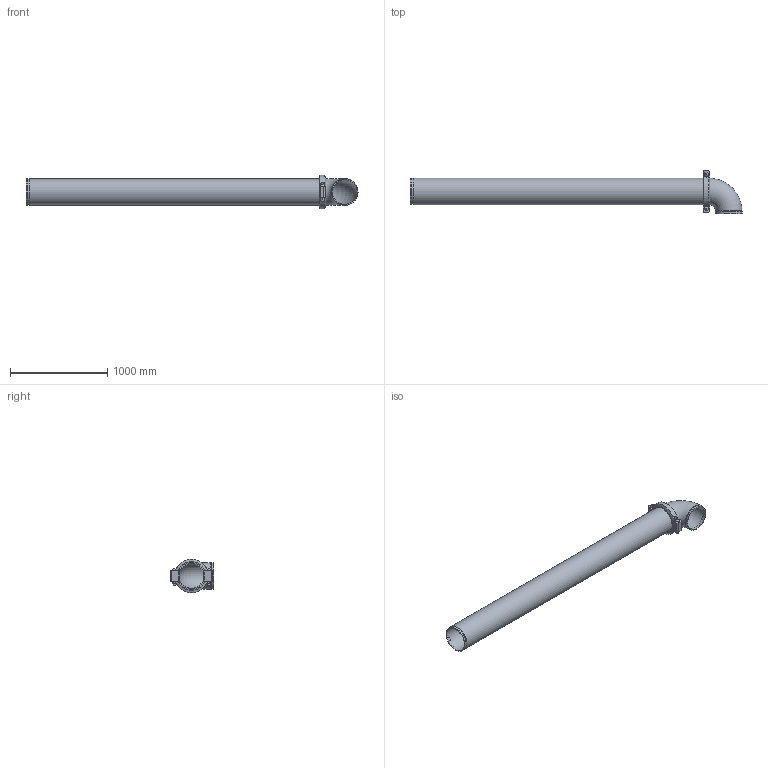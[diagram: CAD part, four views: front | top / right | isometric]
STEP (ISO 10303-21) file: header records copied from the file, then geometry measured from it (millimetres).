
FILE_DESCRIPTION(/* description */ ('VIC LONG RUN FITTING No R23 (OGS)','CAx-IF Rec.Pracs.---Representation and Presentation of Product Manufacturing Information (PMI)---4.0---2014-10-13'),/* implementation_level */ '2;1');
FILE_NAME(/* name */ 'C:\Users\Vjadhav\AppData\Roaming\Autodesk\ApplicationPlugins\Back Up\Victaulic_IPS_Long Run Fittings_No R23 (OGS)\Victaulic_IPS_Long Run Fittings_No R23 (OGS)_10 (250).stp',/* time_stamp */ '2020-10-06T20:02:11+06:00',/* author */ ('Vjadhav'),/* organization */ ('Victaulic'),/* preprocessor_version */ 'ST-DEVELOPER v17.2',/* originating_system */ 'Autodesk Inventor 2019',/* authorisation */ '');
FILE_SCHEMA (('AP242_MANAGED_MODEL_BASED_3D_ENGINEERING_MIM_LF { 1 0 10303 442 1 1 4 }'));
Length unit declared in the file: inch
Products named in the file (4): R23-10.0; 010-10.0; Pipe_R13-10.0; 077-10.0
Assembly tree (3 placements, depth 2):
  R23-10.0
    010-10.0
    Pipe_R13-10.0
    077-10.0
Bounding box: 3416.43 x 446.15 x 344.9 mm (x, y, z)
Volume: 29079137.5 mm3; surface area: 5989518.5 mm2
Topology: 3 solids, 5 shells, 87 faces, 205 edges, 144 vertices
Faces by surface type: plane 48, cylinder 31, cone 4, torus 2, bspline 2
Full cylindrical faces by diameter (mm): 25.4 x4, 27.432 x2, 254.508 x3, 264.16 x1, 268.275 x4, 273.05 x7
Entity records: 3271 total; most frequent: CARTESIAN_POINT 927, DIRECTION 457, ORIENTED_EDGE 410, EDGE_CURVE 205, AXIS2_PLACEMENT_3D 184, VERTEX_POINT 144, EDGE_LOOP 113, CIRCLE 92
